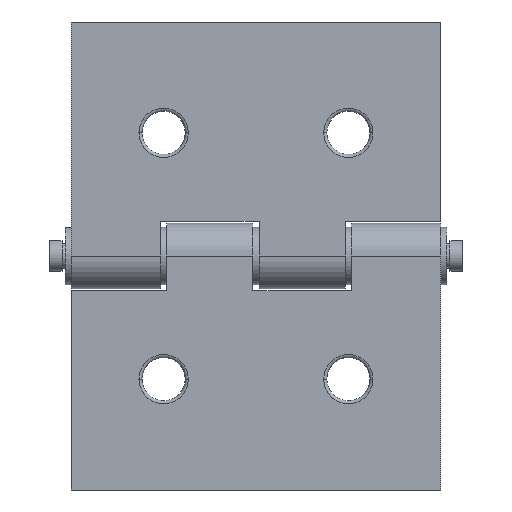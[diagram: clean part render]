
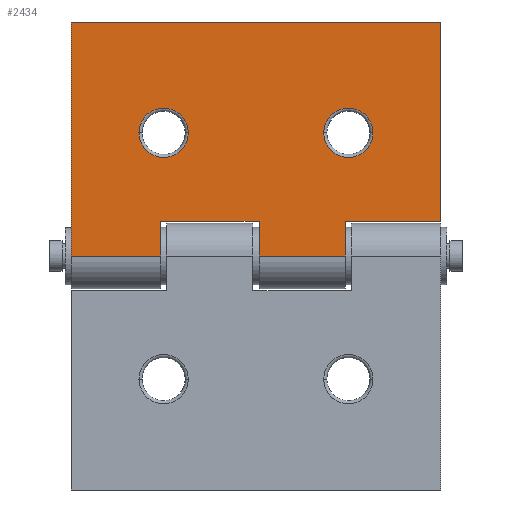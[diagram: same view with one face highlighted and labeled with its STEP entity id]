
A CAD part, left-side view. The second image highlights one B-rep face of the part: STEP entity #2434.
In plain terms, the highlighted planar face has unit normal (-1, 0, 0).
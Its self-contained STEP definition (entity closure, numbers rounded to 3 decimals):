
#3 = LINE ( 'NONE', #19, #2352 ) ;
#16 = EDGE_CURVE ( 'NONE', #2880, #2449, #478, .T. ) ;
#19 = CARTESIAN_POINT ( 'NONE',  ( -5.35, 30., 0. ) ) ;
#40 = VECTOR ( 'NONE', #2851, 1000. ) ;
#61 = ORIENTED_EDGE ( 'NONE', *, *, #180, .F. ) ;
#97 = VERTEX_POINT ( 'NONE', #1221 ) ;
#100 = LINE ( 'NONE', #596, #40 ) ;
#107 = LINE ( 'NONE', #2909, #1051 ) ;
#116 = ORIENTED_EDGE ( 'NONE', *, *, #3184, .T. ) ;
#157 = DIRECTION ( 'NONE',  ( 0., 1., 0. ) ) ;
#180 = EDGE_CURVE ( 'NONE', #1560, #2253, #107, .T. ) ;
#218 = CARTESIAN_POINT ( 'NONE',  ( -5.35, -0.5, 5.65 ) ) ;
#282 = ORIENTED_EDGE ( 'NONE', *, *, #1515, .T. ) ;
#323 = ORIENTED_EDGE ( 'NONE', *, *, #2212, .T. ) ;
#332 = CARTESIAN_POINT ( 'NONE',  ( -5.35, -11., 20. ) ) ;
#343 = ORIENTED_EDGE ( 'NONE', *, *, #698, .F. ) ;
#344 = CARTESIAN_POINT ( 'NONE',  ( -5.35, 30., 0. ) ) ;
#354 = VECTOR ( 'NONE', #2314, 1000. ) ;
#396 = DIRECTION ( 'NONE',  ( 1., 0., 0. ) ) ;
#443 = CIRCLE ( 'NONE', #606, 4. ) ;
#470 = DIRECTION ( 'NONE',  ( 0., -1., 0. ) ) ;
#478 = CIRCLE ( 'NONE', #2646, 4. ) ;
#481 = CARTESIAN_POINT ( 'NONE',  ( -5.35, -30., 38. ) ) ;
#496 = ORIENTED_EDGE ( 'NONE', *, *, #2297, .T. ) ;
#512 = ORIENTED_EDGE ( 'NONE', *, *, #3149, .T. ) ;
#551 = CARTESIAN_POINT ( 'NONE',  ( -5.35, 15., 20. ) ) ;
#555 = DIRECTION ( 'NONE',  ( 0., 0., 1. ) ) ;
#557 = VERTEX_POINT ( 'NONE', #1552 ) ;
#559 = LINE ( 'NONE', #1043, #1739 ) ;
#566 = CARTESIAN_POINT ( 'NONE',  ( -5.35, -30., 5.65 ) ) ;
#571 = EDGE_CURVE ( 'NONE', #557, #2049, #668, .T. ) ;
#573 = EDGE_CURVE ( 'NONE', #857, #2538, #2096, .T. ) ;
#596 = CARTESIAN_POINT ( 'NONE',  ( -5.35, -14.5, -5.35 ) ) ;
#606 = AXIS2_PLACEMENT_3D ( 'NONE', #2926, #2707, #1442 ) ;
#668 = CIRCLE ( 'NONE', #928, 4. ) ;
#686 = PLANE ( 'NONE',  #2627 ) ;
#698 = EDGE_CURVE ( 'NONE', #2253, #2538, #732, .T. ) ;
#709 = ORIENTED_EDGE ( 'NONE', *, *, #907, .T. ) ;
#732 = LINE ( 'NONE', #481, #1929 ) ;
#793 = CARTESIAN_POINT ( 'NONE',  ( -5.35, 30., 0. ) ) ;
#804 = CARTESIAN_POINT ( 'NONE',  ( -5.35, 15.5, 5.65 ) ) ;
#836 = CARTESIAN_POINT ( 'NONE',  ( -5.35, -0.5, 5.65 ) ) ;
#857 = VERTEX_POINT ( 'NONE', #902 ) ;
#895 = ORIENTED_EDGE ( 'NONE', *, *, #571, .T. ) ;
#902 = CARTESIAN_POINT ( 'NONE',  ( -5.35, -14.5, 5.65 ) ) ;
#907 = EDGE_CURVE ( 'NONE', #2683, #2836, #2993, .T. ) ;
#928 = AXIS2_PLACEMENT_3D ( 'NONE', #1497, #2307, #2061 ) ;
#929 = DIRECTION ( 'NONE',  ( 0., 1., 0. ) ) ;
#1017 = CARTESIAN_POINT ( 'NONE',  ( -5.35, 30., 38. ) ) ;
#1043 = CARTESIAN_POINT ( 'NONE',  ( -5.35, 30., 38. ) ) ;
#1046 = CARTESIAN_POINT ( 'NONE',  ( -5.35, -30., 38. ) ) ;
#1048 = CIRCLE ( 'NONE', #2112, 4. ) ;
#1051 = VECTOR ( 'NONE', #1384, 1000. ) ;
#1084 = VECTOR ( 'NONE', #1095, 1000. ) ;
#1095 = DIRECTION ( 'NONE',  ( 0., -1., 0. ) ) ;
#1117 = CARTESIAN_POINT ( 'NONE',  ( -5.35, 19., 20. ) ) ;
#1127 = ORIENTED_EDGE ( 'NONE', *, *, #1831, .T. ) ;
#1221 = CARTESIAN_POINT ( 'NONE',  ( -5.35, 15.5, 0. ) ) ;
#1268 = LINE ( 'NONE', #804, #2128 ) ;
#1280 = VECTOR ( 'NONE', #1841, 1000. ) ;
#1334 = VECTOR ( 'NONE', #470, 1000. ) ;
#1384 = DIRECTION ( 'NONE',  ( 0., -1., 0. ) ) ;
#1388 = ORIENTED_EDGE ( 'NONE', *, *, #1425, .T. ) ;
#1425 = EDGE_CURVE ( 'NONE', #2049, #557, #443, .T. ) ;
#1426 = CARTESIAN_POINT ( 'NONE',  ( -5.35, 30., 38. ) ) ;
#1442 = DIRECTION ( 'NONE',  ( 0., 1., 0. ) ) ;
#1465 = CARTESIAN_POINT ( 'NONE',  ( -5.35, 15.5, 5.65 ) ) ;
#1494 = DIRECTION ( 'NONE',  ( 0., 0., -1. ) ) ;
#1497 = CARTESIAN_POINT ( 'NONE',  ( -5.35, -15., 20. ) ) ;
#1515 = EDGE_CURVE ( 'NONE', #1897, #2272, #3, .T. ) ;
#1552 = CARTESIAN_POINT ( 'NONE',  ( -5.35, -19., 20. ) ) ;
#1560 = VERTEX_POINT ( 'NONE', #1017 ) ;
#1571 = DIRECTION ( 'NONE',  ( 0., 0., -1. ) ) ;
#1692 = FACE_OUTER_BOUND ( 'NONE', #1837, .T. ) ;
#1739 = VECTOR ( 'NONE', #1571, 1000. ) ;
#1748 = VERTEX_POINT ( 'NONE', #344 ) ;
#1831 = EDGE_CURVE ( 'NONE', #1748, #97, #2780, .T. ) ;
#1837 = EDGE_LOOP ( 'NONE', ( #1127, #512, #709, #116, #282, #496, #2592, #343, #61, #2791 ) ) ;
#1841 = DIRECTION ( 'NONE',  ( 0., 0., -1. ) ) ;
#1884 = EDGE_CURVE ( 'NONE', #1560, #1748, #559, .T. ) ;
#1888 = CARTESIAN_POINT ( 'NONE',  ( -5.35, 11., 20. ) ) ;
#1897 = VERTEX_POINT ( 'NONE', #3064 ) ;
#1929 = VECTOR ( 'NONE', #1494, 1000. ) ;
#2022 = CARTESIAN_POINT ( 'NONE',  ( -5.35, -30., 5.65 ) ) ;
#2049 = VERTEX_POINT ( 'NONE', #332 ) ;
#2061 = DIRECTION ( 'NONE',  ( 0., 1., 0. ) ) ;
#2092 = CARTESIAN_POINT ( 'NONE',  ( -5.35, -14.5, 0. ) ) ;
#2096 = LINE ( 'NONE', #566, #1084 ) ;
#2112 = AXIS2_PLACEMENT_3D ( 'NONE', #551, #2629, #2130 ) ;
#2128 = VECTOR ( 'NONE', #555, 1000. ) ;
#2130 = DIRECTION ( 'NONE',  ( 0., 1., 0. ) ) ;
#2212 = EDGE_CURVE ( 'NONE', #2449, #2880, #1048, .T. ) ;
#2253 = VERTEX_POINT ( 'NONE', #1046 ) ;
#2272 = VERTEX_POINT ( 'NONE', #2092 ) ;
#2297 = EDGE_CURVE ( 'NONE', #2272, #857, #100, .T. ) ;
#2307 = DIRECTION ( 'NONE',  ( 1., 0., 0. ) ) ;
#2314 = DIRECTION ( 'NONE',  ( 0., -1., 0. ) ) ;
#2352 = VECTOR ( 'NONE', #2768, 1000. ) ;
#2434 = ADVANCED_FACE ( 'NONE', ( #2687, #2968, #1692 ), #686, .F. ) ;
#2449 = VERTEX_POINT ( 'NONE', #1888 ) ;
#2450 = CARTESIAN_POINT ( 'NONE',  ( -5.35, 15., 20. ) ) ;
#2538 = VERTEX_POINT ( 'NONE', #2022 ) ;
#2592 = ORIENTED_EDGE ( 'NONE', *, *, #573, .T. ) ;
#2627 = AXIS2_PLACEMENT_3D ( 'NONE', #1426, #2671, #157 ) ;
#2629 = DIRECTION ( 'NONE',  ( 1., 0., 0. ) ) ;
#2646 = AXIS2_PLACEMENT_3D ( 'NONE', #2450, #396, #929 ) ;
#2671 = DIRECTION ( 'NONE',  ( 1., 0., 0. ) ) ;
#2680 = ORIENTED_EDGE ( 'NONE', *, *, #16, .T. ) ;
#2683 = VERTEX_POINT ( 'NONE', #1465 ) ;
#2687 = FACE_BOUND ( 'NONE', #3247, .T. ) ;
#2707 = DIRECTION ( 'NONE',  ( 1., 0., 0. ) ) ;
#2768 = DIRECTION ( 'NONE',  ( 0., -1., 0. ) ) ;
#2780 = LINE ( 'NONE', #793, #354 ) ;
#2791 = ORIENTED_EDGE ( 'NONE', *, *, #1884, .T. ) ;
#2836 = VERTEX_POINT ( 'NONE', #836 ) ;
#2846 = EDGE_LOOP ( 'NONE', ( #1388, #895 ) ) ;
#2851 = DIRECTION ( 'NONE',  ( 0., 0., 1. ) ) ;
#2880 = VERTEX_POINT ( 'NONE', #1117 ) ;
#2905 = LINE ( 'NONE', #3160, #1280 ) ;
#2909 = CARTESIAN_POINT ( 'NONE',  ( -5.35, 30., 38. ) ) ;
#2926 = CARTESIAN_POINT ( 'NONE',  ( -5.35, -15., 20. ) ) ;
#2968 = FACE_BOUND ( 'NONE', #2846, .T. ) ;
#2993 = LINE ( 'NONE', #218, #1334 ) ;
#3064 = CARTESIAN_POINT ( 'NONE',  ( -5.35, -0.5, 0. ) ) ;
#3149 = EDGE_CURVE ( 'NONE', #97, #2683, #1268, .T. ) ;
#3160 = CARTESIAN_POINT ( 'NONE',  ( -5.35, -0.5, 5.65 ) ) ;
#3184 = EDGE_CURVE ( 'NONE', #2836, #1897, #2905, .T. ) ;
#3247 = EDGE_LOOP ( 'NONE', ( #2680, #323 ) ) ;
